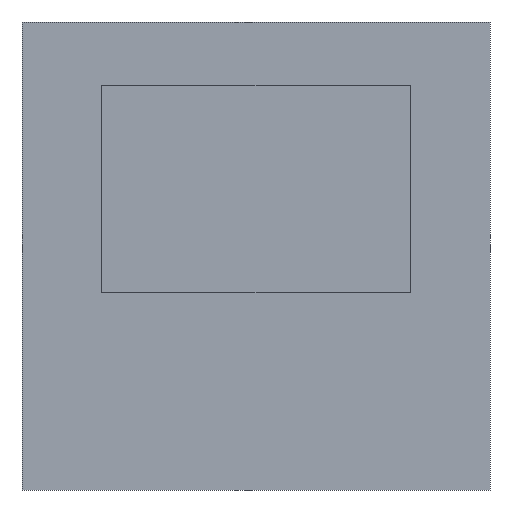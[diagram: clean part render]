
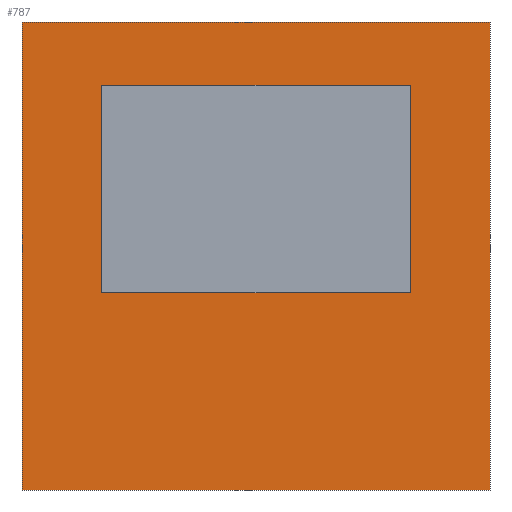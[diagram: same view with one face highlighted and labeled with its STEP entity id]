
A CAD part, front view. The second image highlights one B-rep face of the part: STEP entity #787.
In plain terms, the highlighted planar face has unit normal (0, -1, 0).
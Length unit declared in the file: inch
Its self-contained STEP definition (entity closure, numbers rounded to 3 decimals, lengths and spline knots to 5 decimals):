
#143=DIRECTION('',(1.,0.,0.));
#144=VECTOR('',#143,3.);
#145=CARTESIAN_POINT('',(-1.5,-0.655,-1.75));
#146=LINE('',#145,#144);
#147=DIRECTION('',(0.,0.,-1.));
#148=VECTOR('',#147,3.);
#149=CARTESIAN_POINT('',(-1.5,-0.655,1.25));
#150=LINE('',#149,#148);
#151=DIRECTION('',(-1.,0.,0.));
#152=VECTOR('',#151,3.);
#153=CARTESIAN_POINT('',(1.5,-0.655,1.25));
#154=LINE('',#153,#152);
#155=DIRECTION('',(0.,0.,1.));
#156=VECTOR('',#155,3.);
#157=CARTESIAN_POINT('',(1.5,-0.655,-1.75));
#158=LINE('',#157,#156);
#159=DIRECTION('',(0.,0.,-1.));
#160=VECTOR('',#159,1.33);
#161=CARTESIAN_POINT('',(-0.99,-0.655,0.845));
#162=LINE('',#161,#160);
#163=DIRECTION('',(1.,0.,0.));
#164=VECTOR('',#163,1.98);
#165=CARTESIAN_POINT('',(-0.99,-0.655,-0.485));
#166=LINE('',#165,#164);
#167=DIRECTION('',(0.,0.,1.));
#168=VECTOR('',#167,1.33);
#169=CARTESIAN_POINT('',(0.99,-0.655,-0.485));
#170=LINE('',#169,#168);
#171=DIRECTION('',(-1.,0.,0.));
#172=VECTOR('',#171,1.98);
#173=CARTESIAN_POINT('',(0.99,-0.655,0.845));
#174=LINE('',#173,#172);
#452=CARTESIAN_POINT('',(-1.5,-0.655,-1.75));
#453=CARTESIAN_POINT('',(1.5,-0.655,-1.75));
#454=VERTEX_POINT('',#452);
#455=VERTEX_POINT('',#453);
#456=CARTESIAN_POINT('',(1.5,-0.655,1.25));
#457=VERTEX_POINT('',#456);
#458=CARTESIAN_POINT('',(-1.5,-0.655,1.25));
#459=VERTEX_POINT('',#458);
#516=CARTESIAN_POINT('',(-0.99,-0.655,0.845));
#517=CARTESIAN_POINT('',(-0.99,-0.655,-0.485));
#518=VERTEX_POINT('',#516);
#519=VERTEX_POINT('',#517);
#520=CARTESIAN_POINT('',(0.99,-0.655,-0.485));
#521=VERTEX_POINT('',#520);
#522=CARTESIAN_POINT('',(0.99,-0.655,0.845));
#523=VERTEX_POINT('',#522);
#766=CARTESIAN_POINT('',(0.,-0.655,0.));
#767=DIRECTION('',(0.,-1.,0.));
#768=DIRECTION('',(0.,0.,1.));
#769=AXIS2_PLACEMENT_3D('',#766,#767,#768);
#770=PLANE('',#769);
#771=ORIENTED_EDGE('',*,*,#718,.F.);
#772=ORIENTED_EDGE('',*,*,#733,.F.);
#773=ORIENTED_EDGE('',*,*,#747,.F.);
#774=ORIENTED_EDGE('',*,*,#760,.F.);
#775=EDGE_LOOP('',(#771,#772,#773,#774));
#776=FACE_OUTER_BOUND('',#775,.F.);
#778=ORIENTED_EDGE('',*,*,#777,.T.);
#780=ORIENTED_EDGE('',*,*,#779,.T.);
#782=ORIENTED_EDGE('',*,*,#781,.T.);
#784=ORIENTED_EDGE('',*,*,#783,.T.);
#785=EDGE_LOOP('',(#778,#780,#782,#784));
#786=FACE_BOUND('',#785,.F.);
#718=EDGE_CURVE('',#454,#455,#146,.T.);
#733=EDGE_CURVE('',#459,#454,#150,.T.);
#747=EDGE_CURVE('',#457,#459,#154,.T.);
#760=EDGE_CURVE('',#455,#457,#158,.T.);
#777=EDGE_CURVE('',#518,#519,#162,.T.);
#779=EDGE_CURVE('',#519,#521,#166,.T.);
#781=EDGE_CURVE('',#521,#523,#170,.T.);
#783=EDGE_CURVE('',#523,#518,#174,.T.);
#787=ADVANCED_FACE('',(#776,#786),#770,.T.);
